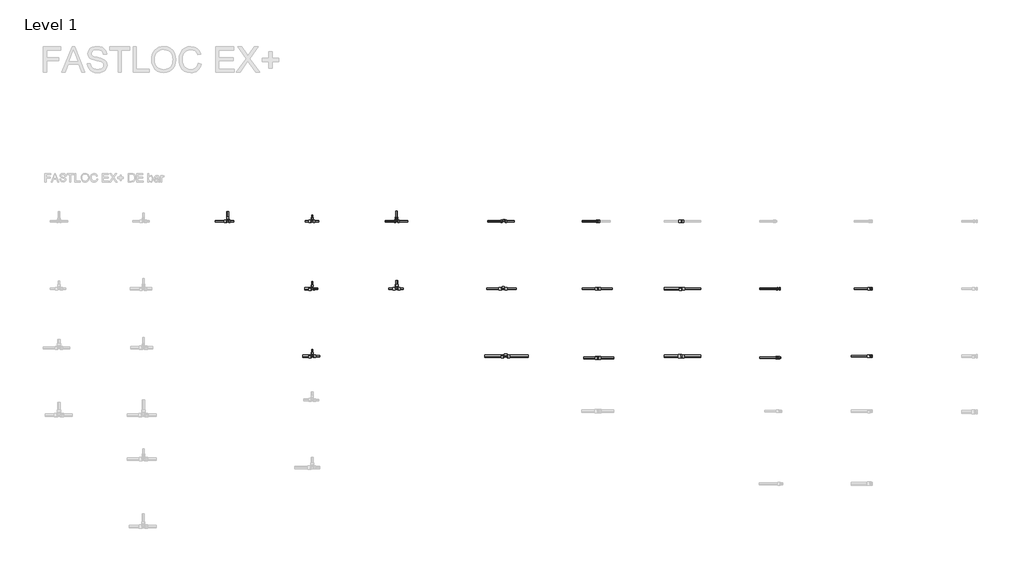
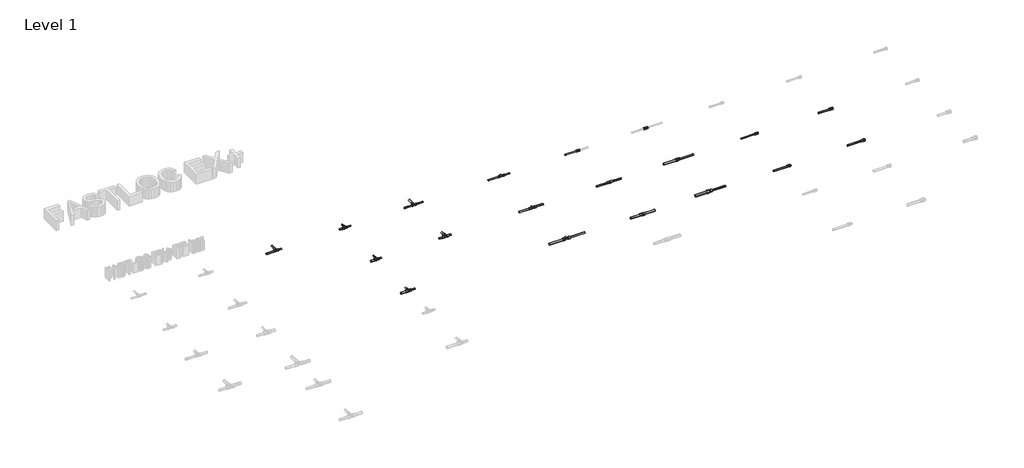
# One storey, part 11 of 16: 37 pipe segments, 19 pipe fittings.
"""IFC4 building model written with IfcOpenShell, lengths in millimetres."""

from ifc_helpers import new_model, si_unit, point, frame, frame_2d, origin, place, context, project, spatial, circle_curve, trimmed, segment, composite_curve, outline, extrude, transform, mapped, element, save
from components import pipe_fitting_41a35f07, pipe_fitting_bbd05bdc, pipe_fitting_027be69e, pipe_fitting_e3b44c6b, pipe_fitting_688652c5, pipe_fitting_e7337aea, pipe_fitting_b316c006, pipe_fitting_93b3fcde, pipe_fitting_ef50923d, pipe_fitting_c646100e, pipe_fitting_f9f4b2e9, pipe_fitting_1d22680d, pipe_fitting_5e3c5755, pipe_fitting_6195120d, pipe_fitting_382bea88, pipe_fitting_006a9863, pipe_fitting_3eb6683a, pipe_fitting_f7ee4d9f, pipe_fitting_f8d70d0e

model = new_model("IFC4")

# Units and contexts
model_context = context("Model", 3, world=origin())
ifc_project = project(units=[si_unit("LENGTHUNIT", "METRE", prefix="MILLI")], contexts=[model_context])

# Site, building, storey
site = spatial("IfcSite", under=ifc_project)
building = spatial("IfcBuilding", under=site)
storey = spatial("IfcBuildingStorey", under=building, Name="Level 1", Elevation=0.0)

# Pipe fittings
placement = place(None, origin())
pipe_fitting_shape = pipe_fitting_41a35f07(model_context)
element("IfcPipeFitting", 1, ObjectType="FASTLOC_Adapter_RX+, with external thread : FSL A C external EX+ DE", at=placement, inside=storey, context=model_context, shape_type="MappedRepresentation", body=[
    mapped(pipe_fitting_shape, transform((10080.5062975, 1212.3520033, 0.0), x_axis=(1.0, 0.0, 0.0), y_axis=(0.0, 1.0, 0.0), z_axis=(0.0, 0.0, 1.0))),
])
pipe_fitting_2_shape = pipe_fitting_bbd05bdc(model_context)
element("IfcPipeFitting", 2, ObjectType="FASTLOC_Adapter_RX+, with external thread : FSL A C external EX+ DE", at=placement, inside=storey, context=model_context, shape_type="MappedRepresentation", body=[
    mapped(pipe_fitting_2_shape, transform((10090.6359613, 393.645754, 0.0), x_axis=(1.0, 0.0, 0.0), y_axis=(0.0, 1.0, 0.0), z_axis=(0.0, 0.0, 1.0))),
])
pipe_fitting_3_shape = pipe_fitting_027be69e(model_context)
element("IfcPipeFitting", 3, ObjectType="FASTLOC_Coupling equal EX+ : FSL C EQ EX+ DE", at=placement, inside=storey, context=model_context, shape_type="MappedRepresentation", body=[
    mapped(pipe_fitting_3_shape, transform((7947.6401575, 2012.3520033, 0.0), x_axis=(1.0, 0.0, 0.0), y_axis=(0.0, 1.0, 0.0), z_axis=(0.0, 0.0, 1.0))),
])
pipe_fitting_4_shape = pipe_fitting_e3b44c6b(model_context)
element("IfcPipeFitting", 4, ObjectType="FASTLOC_T-piece internal thread EX+ : FSL T thread EX+ DE", at=placement, inside=storey, context=model_context, shape_type="MappedRepresentation", body=[
    mapped(pipe_fitting_4_shape, transform((6823.972973, 1212.3520033, 0.0), x_axis=(1.0, 0.0, 0.0), y_axis=(0.0, 1.0, 0.0), z_axis=(0.0, 0.0, 1.0))),
])
pipe_fitting_5_shape = pipe_fitting_688652c5(model_context)
element("IfcPipeFitting", 5, ObjectType="FASTLOC_T-piece internal thread EX+ : FSL T thread EX+ DE", at=placement, inside=storey, context=model_context, shape_type="MappedRepresentation", body=[
    mapped(pipe_fitting_5_shape, transform((6854.9423493, 412.3520033, 0.0), x_axis=(1.0, 0.0, 0.0), y_axis=(0.0, 1.0, 0.0), z_axis=(0.0, 0.0, 1.0))),
])
pipe_fitting_6_shape = pipe_fitting_e7337aea(model_context)
element("IfcPipeFitting", 6, ObjectType="FASTLOC_T-piece_EX+ : FSL T-Piece EX+ DE", at=placement, inside=storey, context=model_context, shape_type="MappedRepresentation", body=[
    mapped(pipe_fitting_6_shape, transform((3562.9146925, 2012.3520033, 0.0), x_axis=(1.0, 0.0, 0.0), y_axis=(0.0, 1.0, 0.0), z_axis=(0.0, 0.0, 1.0))),
])
pipe_fitting_7_shape = pipe_fitting_b316c006(model_context)
element("IfcPipeFitting", 7, ObjectType="FASTLOC_T-piece_EX+ : FSL T-Piece EX+ DE", at=placement, inside=storey, context=model_context, shape_type="MappedRepresentation", body=[
    mapped(pipe_fitting_7_shape, transform((4562.9146925, 2012.3520033, 0.0), x_axis=(1.0, 0.0, 0.0), y_axis=(0.0, 1.0, 0.0), z_axis=(0.0, 0.0, 1.0))),
])
pipe_fitting_8_shape = pipe_fitting_93b3fcde(model_context)
element("IfcPipeFitting", 8, ObjectType="FASTLOC_T-piece_EX+ : FSL T-Piece EX+ DE", at=placement, inside=storey, context=model_context, shape_type="MappedRepresentation", body=[
    mapped(pipe_fitting_8_shape, transform((4562.9146925, 1212.3520033, 0.0), x_axis=(1.0, 0.0, 0.0), y_axis=(0.0, 1.0, 0.0), z_axis=(0.0, 0.0, 1.0))),
])
pipe_fitting_9_shape = pipe_fitting_ef50923d(model_context)
element("IfcPipeFitting", 9, ObjectType="FASTLOC_T-piece_EX+ : FSL T-Piece EX+ DE", at=placement, inside=storey, context=model_context, shape_type="MappedRepresentation", body=[
    mapped(pipe_fitting_9_shape, transform((4562.9146925, 412.3520033, 0.0), x_axis=(1.0, 0.0, 0.0), y_axis=(0.0, 1.0, 0.0), z_axis=(0.0, 0.0, 1.0))),
])
pipe_fitting_10_shape = pipe_fitting_c646100e(model_context)
element("IfcPipeFitting", 10, ObjectType="FASTLOC_T-piece_EX+ : FSL T-Piece EX+ DE", at=placement, inside=storey, context=model_context, shape_type="MappedRepresentation", body=[
    mapped(pipe_fitting_10_shape, transform((5562.9146925, 1212.3520033, 0.0), x_axis=(1.0, 0.0, 0.0), y_axis=(0.0, 1.0, 0.0), z_axis=(0.0, 0.0, 1.0))),
])
pipe_fitting_11_shape = pipe_fitting_f9f4b2e9(model_context)
element("IfcPipeFitting", 11, ObjectType="FASTLOC_Coupling reduced EX+ : FSL C RE EX+ DE", at=placement, inside=storey, context=model_context, shape_type="MappedRepresentation", body=[
    mapped(pipe_fitting_11_shape, transform((8942.2258143, 1212.3520033, 0.0), x_axis=(1.0, 0.0, 0.0), y_axis=(0.0, 1.0, 0.0), z_axis=(0.0, 0.0, 1.0))),
])
pipe_fitting_12_shape = pipe_fitting_1d22680d(model_context)
element("IfcPipeFitting", 12, ObjectType="FASTLOC_Coupling equal EX+ : FSL C EQ EX+ DE", at=placement, inside=storey, context=model_context, shape_type="MappedRepresentation", body=[
    mapped(pipe_fitting_12_shape, transform((7947.6401575, 1212.3520033, 0.0), x_axis=(1.0, 0.0, 0.0), y_axis=(0.0, 1.0, 0.0), z_axis=(0.0, 0.0, 1.0))),
])
pipe_fitting_13_shape = pipe_fitting_5e3c5755(model_context)
element("IfcPipeFitting", 13, ObjectType="FASTLOC_Coupling equal EX+ : FSL C EQ EX+ DE", at=placement, inside=storey, context=model_context, shape_type="MappedRepresentation", body=[
    mapped(pipe_fitting_13_shape, transform((7947.6401575, 393.645754, 0.0), x_axis=(1.0, 0.0, 0.0), y_axis=(0.0, 1.0, 0.0), z_axis=(0.0, 0.0, 1.0))),
])
pipe_fitting_14_shape = pipe_fitting_6195120d(model_context)
element("IfcPipeFitting", 14, ObjectType="FASTLOC_Coupling reduced EX+ : FSL C RE EX+ DE", at=placement, inside=storey, context=model_context, shape_type="MappedRepresentation", body=[
    mapped(pipe_fitting_14_shape, transform((8942.2258143, 2012.3520033, 0.0), x_axis=(1.0, 0.0, 0.0), y_axis=(0.0, 1.0, 0.0), z_axis=(0.0, 0.0, 1.0))),
])
pipe_fitting_15_shape = pipe_fitting_382bea88(model_context)
element("IfcPipeFitting", 15, ObjectType="FASTLOC_Coupling reduced EX+ : FSL C RE EX+ DE", at=placement, inside=storey, context=model_context, shape_type="MappedRepresentation", body=[
    mapped(pipe_fitting_15_shape, transform((8942.2258143, 412.3520033, 0.0), x_axis=(1.0, 0.0, 0.0), y_axis=(0.0, 1.0, 0.0), z_axis=(0.0, 0.0, 1.0))),
])
pipe_fitting_16_shape = pipe_fitting_006a9863(model_context)
element("IfcPipeFitting", 16, ObjectType="FASTLOC_T-piece_EX+ : FSL T-Piece EX+ DE", at=placement, inside=storey, context=model_context, shape_type="MappedRepresentation", body=[
    mapped(pipe_fitting_16_shape, transform((5562.9146925, 2012.3520033, 0.0), x_axis=(1.0, 0.0, 0.0), y_axis=(0.0, 1.0, 0.0), z_axis=(0.0, 0.0, 1.0))),
])
pipe_fitting_17_shape = pipe_fitting_3eb6683a(model_context)
element("IfcPipeFitting", 17, ObjectType="FASTLOC_T-piece internal thread EX+ : FSL T thread EX+ DE", at=placement, inside=storey, context=model_context, shape_type="MappedRepresentation", body=[
    mapped(pipe_fitting_17_shape, transform((6834.0203333, 2012.3520033, 0.0), x_axis=(1.0, 0.0, 0.0), y_axis=(0.0, 1.0, 0.0), z_axis=(0.0, 0.0, 1.0))),
])
pipe_fitting_18_shape = pipe_fitting_f7ee4d9f(model_context)
element("IfcPipeFitting", 18, ObjectType="FASTLOC_Adapter_EX+, with internal thread : FSL A internal DE", at=placement, inside=storey, context=model_context, shape_type="MappedRepresentation", body=[
    mapped(pipe_fitting_18_shape, transform((11179.5143796, 1212.3520033, 0.0), x_axis=(1.0, 0.0, 0.0), y_axis=(0.0, 1.0, 0.0), z_axis=(0.0, 0.0, 1.0))),
])
pipe_fitting_19_shape = pipe_fitting_f8d70d0e(model_context)
element("IfcPipeFitting", 19, ObjectType="FASTLOC_Adapter_EX+, with internal thread : FSL A internal DE", at=placement, inside=storey, context=model_context, shape_type="MappedRepresentation", body=[
    mapped(pipe_fitting_19_shape, transform((11179.5143796, 412.3520033, 0.0), x_axis=(1.0, 0.0, 0.0), y_axis=(0.0, 1.0, 0.0), z_axis=(0.0, 0.0, 1.0))),
])

# Pipe segments
element("IfcPipeSegment", 20, ObjectType="FASTLOC EX+ ML DE bar", at=placement, inside=storey, context=model_context, shape_type="SweptSolid", body=[
    extrude(outline(composite_curve([segment(trimmed(circle_curve(frame_2d((1212.3520033, 0.0)), 10.0), [point((1222.3520033, 0.0))], [point((1212.3520033, -10.0))], False, "CARTESIAN"), True, "CONTINUOUS"), segment(trimmed(circle_curve(frame_2d((1212.3520033, 0.0)), 10.0), [point((1212.3520033, -10.0))], [point((1202.3520033, 0.0))], False, "CARTESIAN"), True, "CONTINUOUS"), segment(trimmed(circle_curve(frame_2d((1212.3520033, 0.0)), 10.0), [point((1202.3520033, 0.0))], [point((1212.3520033, 10.0))], False, "CARTESIAN"), True, "CONTINUOUS"), segment(trimmed(circle_curve(frame_2d((1212.3520033, 0.0)), 10.0), [point((1212.3520033, 10.0))], [point((1222.3520033, 0.0))], False, "CARTESIAN"), True, "CONTINUOUS")], self_intersect=False)), frame((10987.1143796, 0.0, 0.0), z_axis=(1.0, 0.0, 0.0), x_axis=(0.0, 1.0, 0.0)), (0.0, 0.0, 1.0), 180.7),
])
element("IfcPipeSegment", 21, ObjectType="FASTLOC EX+ ML DE bar", at=placement, inside=storey, context=model_context, shape_type="SweptSolid", body=[
    extrude(outline(composite_curve([segment(trimmed(circle_curve(frame_2d((412.3520033, 0.0)), 10.0), [point((422.3520033, 0.0))], [point((412.3520033, -10.0))], False, "CARTESIAN"), True, "CONTINUOUS"), segment(trimmed(circle_curve(frame_2d((412.3520033, 0.0)), 10.0), [point((412.3520033, -10.0))], [point((402.3520033, 0.0))], False, "CARTESIAN"), True, "CONTINUOUS"), segment(trimmed(circle_curve(frame_2d((412.3520033, 0.0)), 10.0), [point((402.3520033, 0.0))], [point((412.3520033, 10.0))], False, "CARTESIAN"), True, "CONTINUOUS"), segment(trimmed(circle_curve(frame_2d((412.3520033, 0.0)), 10.0), [point((412.3520033, 10.0))], [point((422.3520033, 0.0))], False, "CARTESIAN"), True, "CONTINUOUS")], self_intersect=False)), frame((10946.2143796, 0.0, 0.0), z_axis=(1.0, 0.0, 0.0), x_axis=(0.0, 1.0, 0.0)), (0.0, 0.0, 1.0), 220.0),
])
element("IfcPipeSegment", 22, ObjectType="FASTLOC EX+ ML DE bar", at=placement, inside=storey, context=model_context, shape_type="SweptSolid", body=[
    extrude(outline(composite_curve([segment(trimmed(circle_curve(frame_2d((393.645754, 0.0)), 10.0), [point((403.645754, 0.0))], [point((393.645754, -10.0))], False, "CARTESIAN"), True, "CONTINUOUS"), segment(trimmed(circle_curve(frame_2d((393.645754, 0.0)), 10.0), [point((393.645754, -10.0))], [point((383.645754, 0.0))], False, "CARTESIAN"), True, "CONTINUOUS"), segment(trimmed(circle_curve(frame_2d((393.645754, 0.0)), 10.0), [point((383.645754, 0.0))], [point((393.645754, 10.0))], False, "CARTESIAN"), True, "CONTINUOUS"), segment(trimmed(circle_curve(frame_2d((393.645754, 0.0)), 10.0), [point((393.645754, 10.0))], [point((403.645754, 0.0))], False, "CARTESIAN"), True, "CONTINUOUS")], self_intersect=False)), frame((9861.9359613, 0.0, 0.0), z_axis=(1.0, 0.0, 0.0), x_axis=(0.0, 1.0, 0.0)), (0.0, 0.0, 1.0), 220.0),
])
element("IfcPipeSegment", 23, ObjectType="FASTLOC EX+ ML DE bar", at=placement, inside=storey, context=model_context, shape_type="SweptSolid", body=[
    extrude(outline(composite_curve([segment(trimmed(circle_curve(frame_2d((1212.3520033, 0.0)), 8.0), [point((1220.3520033, 0.0))], [point((1212.3520033, -8.0))], False, "CARTESIAN"), True, "CONTINUOUS"), segment(trimmed(circle_curve(frame_2d((1212.3520033, 0.0)), 8.0), [point((1212.3520033, -8.0))], [point((1204.3520033, 0.0))], False, "CARTESIAN"), True, "CONTINUOUS"), segment(trimmed(circle_curve(frame_2d((1212.3520033, 0.0)), 8.0), [point((1204.3520033, 0.0))], [point((1212.3520033, 8.0))], False, "CARTESIAN"), True, "CONTINUOUS"), segment(trimmed(circle_curve(frame_2d((1212.3520033, 0.0)), 8.0), [point((1212.3520033, 8.0))], [point((1220.3520033, 0.0))], False, "CARTESIAN"), True, "CONTINUOUS")], self_intersect=False)), frame((9861.9359613, 0.0, 0.0), z_axis=(1.0, 0.0, 0.0), x_axis=(0.0, 1.0, 0.0)), (0.0, 0.0, 1.0), 209.6703362),
])
element("IfcPipeSegment", 24, ObjectType="FASTLOC EX+ ML DE bar", at=placement, inside=storey, context=model_context, shape_type="SweptSolid", body=[
    extrude(outline(composite_curve([segment(trimmed(circle_curve(frame_2d((2012.3520033, 0.0)), 8.0), [point((2020.3520033, 0.0))], [point((2012.3520033, -8.0))], False, "CARTESIAN"), True, "CONTINUOUS"), segment(trimmed(circle_curve(frame_2d((2012.3520033, 0.0)), 8.0), [point((2012.3520033, -8.0))], [point((2004.3520033, 0.0))], False, "CARTESIAN"), True, "CONTINUOUS"), segment(trimmed(circle_curve(frame_2d((2012.3520033, 0.0)), 8.0), [point((2004.3520033, 0.0))], [point((2012.3520033, 8.0))], False, "CARTESIAN"), True, "CONTINUOUS"), segment(trimmed(circle_curve(frame_2d((2012.3520033, 0.0)), 8.0), [point((2012.3520033, 8.0))], [point((2020.3520033, 0.0))], False, "CARTESIAN"), True, "CONTINUOUS")], self_intersect=False)), frame((7760.4401575, 0.0, 0.0), z_axis=(1.0, 0.0, 0.0), x_axis=(0.0, 1.0, 0.0)), (0.0, 0.0, 1.0), 180.0),
])
element("IfcPipeSegment", 25, ObjectType="FASTLOC EX+ ML DE bar", at=placement, inside=storey, context=model_context, shape_type="SweptSolid", body=[
    extrude(outline(composite_curve([segment(trimmed(circle_curve(frame_2d((1212.3520033, 0.0)), 10.0), [point((1202.3520033, 0.0))], [point((1212.3520033, 10.0))], False, "CARTESIAN"), True, "CONTINUOUS"), segment(trimmed(circle_curve(frame_2d((1212.3520033, 0.0)), 10.0), [point((1212.3520033, 10.0))], [point((1222.3520033, 0.0))], False, "CARTESIAN"), True, "CONTINUOUS"), segment(trimmed(circle_curve(frame_2d((1212.3520033, 0.0)), 10.0), [point((1222.3520033, 0.0))], [point((1212.3520033, -10.0))], False, "CARTESIAN"), True, "CONTINUOUS"), segment(trimmed(circle_curve(frame_2d((1212.3520033, 0.0)), 10.0), [point((1212.3520033, -10.0))], [point((1202.3520033, 0.0))], False, "CARTESIAN"), True, "CONTINUOUS")], self_intersect=False)), frame((7955.0401575, 0.0, 0.0), z_axis=(1.0, 0.0, 0.0), x_axis=(0.0, 1.0, 0.0)), (0.0, 0.0, 1.0), 160.0),
])
element("IfcPipeSegment", 26, ObjectType="FASTLOC EX+ ML DE bar", at=placement, inside=storey, context=model_context, shape_type="SweptSolid", body=[
    extrude(outline(composite_curve([segment(trimmed(circle_curve(frame_2d((1212.3520033, 0.0)), 10.0), [point((1222.3520033, 0.0))], [point((1212.3520033, -10.0))], False, "CARTESIAN"), True, "CONTINUOUS"), segment(trimmed(circle_curve(frame_2d((1212.3520033, 0.0)), 10.0), [point((1212.3520033, -10.0))], [point((1202.3520033, 0.0))], False, "CARTESIAN"), True, "CONTINUOUS"), segment(trimmed(circle_curve(frame_2d((1212.3520033, 0.0)), 10.0), [point((1202.3520033, 0.0))], [point((1212.3520033, 10.0))], False, "CARTESIAN"), True, "CONTINUOUS"), segment(trimmed(circle_curve(frame_2d((1212.3520033, 0.0)), 10.0), [point((1212.3520033, 10.0))], [point((1222.3520033, 0.0))], False, "CARTESIAN"), True, "CONTINUOUS")], self_intersect=False)), frame((7760.4401575, 0.0, 0.0), z_axis=(1.0, 0.0, 0.0), x_axis=(0.0, 1.0, 0.0)), (0.0, 0.0, 1.0), 179.8),
])
element("IfcPipeSegment", 27, ObjectType="FASTLOC EX+ ML DE bar", at=placement, inside=storey, context=model_context, shape_type="SweptSolid", body=[
    extrude(outline(composite_curve([segment(trimmed(circle_curve(frame_2d((393.645754, 0.0)), 12.5), [point((381.145754, 0.0))], [point((393.645754, 12.5))], False, "CARTESIAN"), True, "CONTINUOUS"), segment(trimmed(circle_curve(frame_2d((393.645754, 0.0)), 12.5), [point((393.645754, 12.5))], [point((406.145754, 0.0))], False, "CARTESIAN"), True, "CONTINUOUS"), segment(trimmed(circle_curve(frame_2d((393.645754, 0.0)), 12.5), [point((406.145754, 0.0))], [point((393.645754, -12.5))], False, "CARTESIAN"), True, "CONTINUOUS"), segment(trimmed(circle_curve(frame_2d((393.645754, 0.0)), 12.5), [point((393.645754, -12.5))], [point((381.145754, 0.0))], False, "CARTESIAN"), True, "CONTINUOUS")], self_intersect=False)), frame((7955.6401575, 0.0, 0.0), z_axis=(1.0, 0.0, 0.0), x_axis=(0.0, 1.0, 0.0)), (0.0, 0.0, 1.0), 180.0),
])
element("IfcPipeSegment", 28, ObjectType="FASTLOC EX+ ML DE bar", at=placement, inside=storey, context=model_context, shape_type="SweptSolid", body=[
    extrude(outline(composite_curve([segment(trimmed(circle_curve(frame_2d((393.645754, 0.0)), 12.5), [point((406.145754, 0.0))], [point((393.645754, -12.5))], False, "CARTESIAN"), True, "CONTINUOUS"), segment(trimmed(circle_curve(frame_2d((393.645754, 0.0)), 12.5), [point((393.645754, -12.5))], [point((381.145754, 0.0))], False, "CARTESIAN"), True, "CONTINUOUS"), segment(trimmed(circle_curve(frame_2d((393.645754, 0.0)), 12.5), [point((381.145754, 0.0))], [point((393.645754, 12.5))], False, "CARTESIAN"), True, "CONTINUOUS"), segment(trimmed(circle_curve(frame_2d((393.645754, 0.0)), 12.5), [point((393.645754, 12.5))], [point((406.145754, 0.0))], False, "CARTESIAN"), True, "CONTINUOUS")], self_intersect=False)), frame((7779.6401575, 0.0, 0.0), z_axis=(1.0, 0.0, 0.0), x_axis=(0.0, 1.0, 0.0)), (0.0, 0.0, 1.0), 160.0),
])
element("IfcPipeSegment", 29, ObjectType="FASTLOC EX+ ML DE bar", at=placement, inside=storey, context=model_context, shape_type="SweptSolid", body=[
    extrude(outline(composite_curve([segment(trimmed(circle_curve(frame_2d((412.3520033, 0.0)), 12.5), [point((399.8520033, 0.0))], [point((412.3520033, 12.5))], False, "CARTESIAN"), True, "CONTINUOUS"), segment(trimmed(circle_curve(frame_2d((412.3520033, 0.0)), 12.5), [point((412.3520033, 12.5))], [point((424.8520033, 0.0))], False, "CARTESIAN"), True, "CONTINUOUS"), segment(trimmed(circle_curve(frame_2d((412.3520033, 0.0)), 12.5), [point((424.8520033, 0.0))], [point((412.3520033, -12.5))], False, "CARTESIAN"), True, "CONTINUOUS"), segment(trimmed(circle_curve(frame_2d((412.3520033, 0.0)), 12.5), [point((412.3520033, -12.5))], [point((399.8520033, 0.0))], False, "CARTESIAN"), True, "CONTINUOUS")], self_intersect=False)), frame((6881.6423493, 0.0, 0.0), z_axis=(1.0, 0.0, 0.0), x_axis=(0.0, 1.0, 0.0)), (0.0, 0.0, 1.0), 240.0),
])
element("IfcPipeSegment", 30, ObjectType="FASTLOC EX+ ML DE bar", at=placement, inside=storey, context=model_context, shape_type="SweptSolid", body=[
    extrude(outline(composite_curve([segment(trimmed(circle_curve(frame_2d((412.3520033, 0.0)), 12.5), [point((424.8520033, 0.0))], [point((412.3520033, -12.5))], False, "CARTESIAN"), True, "CONTINUOUS"), segment(trimmed(circle_curve(frame_2d((412.3520033, 0.0)), 12.5), [point((412.3520033, -12.5))], [point((399.8520033, 0.0))], False, "CARTESIAN"), True, "CONTINUOUS"), segment(trimmed(circle_curve(frame_2d((412.3520033, 0.0)), 12.5), [point((399.8520033, 0.0))], [point((412.3520033, 12.5))], False, "CARTESIAN"), True, "CONTINUOUS"), segment(trimmed(circle_curve(frame_2d((412.3520033, 0.0)), 12.5), [point((412.3520033, 12.5))], [point((424.8520033, 0.0))], False, "CARTESIAN"), True, "CONTINUOUS")], self_intersect=False)), frame((6608.2423493, 0.0, 0.0), z_axis=(1.0, 0.0, 0.0), x_axis=(0.0, 1.0, 0.0)), (0.0, 0.0, 1.0), 220.0),
])
element("IfcPipeSegment", 31, ObjectType="FASTLOC EX+ ML DE bar", at=placement, inside=storey, context=model_context, shape_type="SweptSolid", body=[
    extrude(outline(composite_curve([segment(trimmed(circle_curve(frame_2d((1212.3520033, 0.0)), 10.0), [point((1202.3520033, 0.0))], [point((1212.3520033, 10.0))], False, "CARTESIAN"), True, "CONTINUOUS"), segment(trimmed(circle_curve(frame_2d((1212.3520033, 0.0)), 10.0), [point((1212.3520033, 10.0))], [point((1222.3520033, 0.0))], False, "CARTESIAN"), True, "CONTINUOUS"), segment(trimmed(circle_curve(frame_2d((1212.3520033, 0.0)), 10.0), [point((1222.3520033, 0.0))], [point((1212.3520033, -10.0))], False, "CARTESIAN"), True, "CONTINUOUS"), segment(trimmed(circle_curve(frame_2d((1212.3520033, 0.0)), 10.0), [point((1212.3520033, -10.0))], [point((1202.3520033, 0.0))], False, "CARTESIAN"), True, "CONTINUOUS")], self_intersect=False)), frame((6846.472973, 0.0, 0.0), z_axis=(1.0, 0.0, 0.0), x_axis=(0.0, 1.0, 0.0)), (0.0, 0.0, 1.0), 135.0),
])
element("IfcPipeSegment", 32, ObjectType="FASTLOC EX+ ML DE bar", at=placement, inside=storey, context=model_context, shape_type="SweptSolid", body=[
    extrude(outline(composite_curve([segment(trimmed(circle_curve(frame_2d((1212.3520033, 0.0)), 10.0), [point((1222.3520033, 0.0))], [point((1212.3520033, -10.0))], False, "CARTESIAN"), True, "CONTINUOUS"), segment(trimmed(circle_curve(frame_2d((1212.3520033, 0.0)), 10.0), [point((1212.3520033, -10.0))], [point((1202.3520033, 0.0))], False, "CARTESIAN"), True, "CONTINUOUS"), segment(trimmed(circle_curve(frame_2d((1212.3520033, 0.0)), 10.0), [point((1202.3520033, 0.0))], [point((1212.3520033, 10.0))], False, "CARTESIAN"), True, "CONTINUOUS"), segment(trimmed(circle_curve(frame_2d((1212.3520033, 0.0)), 10.0), [point((1212.3520033, 10.0))], [point((1222.3520033, 0.0))], False, "CARTESIAN"), True, "CONTINUOUS")], self_intersect=False)), frame((6631.472973, 0.0, 0.0), z_axis=(1.0, 0.0, 0.0), x_axis=(0.0, 1.0, 0.0)), (0.0, 0.0, 1.0), 170.0),
])
element("IfcPipeSegment", 33, ObjectType="FASTLOC EX+ ML DE bar", at=placement, inside=storey, context=model_context, shape_type="SweptSolid", body=[
    extrude(outline(composite_curve([segment(trimmed(circle_curve(frame_2d((2012.3520033, 0.0)), 8.0), [point((2004.3520033, 0.0))], [point((2012.3520033, 8.0))], False, "CARTESIAN"), True, "CONTINUOUS"), segment(trimmed(circle_curve(frame_2d((2012.3520033, 0.0)), 8.0), [point((2012.3520033, 8.0))], [point((2020.3520033, 0.0))], False, "CARTESIAN"), True, "CONTINUOUS"), segment(trimmed(circle_curve(frame_2d((2012.3520033, 0.0)), 8.0), [point((2020.3520033, 0.0))], [point((2012.3520033, -8.0))], False, "CARTESIAN"), True, "CONTINUOUS"), segment(trimmed(circle_curve(frame_2d((2012.3520033, 0.0)), 8.0), [point((2012.3520033, -8.0))], [point((2004.3520033, 0.0))], False, "CARTESIAN"), True, "CONTINUOUS")], self_intersect=False)), frame((6856.0203333, 0.0, 0.0), z_axis=(1.0, 0.0, 0.0), x_axis=(0.0, 1.0, 0.0)), (0.0, 0.0, 1.0), 100.0),
])
element("IfcPipeSegment", 34, ObjectType="FASTLOC EX+ ML DE bar", at=placement, inside=storey, context=model_context, shape_type="SweptSolid", body=[
    extrude(outline(composite_curve([segment(trimmed(circle_curve(frame_2d((2012.3520033, 0.0)), 8.0), [point((2020.3520033, 0.0))], [point((2012.3520033, -8.0))], False, "CARTESIAN"), True, "CONTINUOUS"), segment(trimmed(circle_curve(frame_2d((2012.3520033, 0.0)), 8.0), [point((2012.3520033, -8.0))], [point((2004.3520033, 0.0))], False, "CARTESIAN"), True, "CONTINUOUS"), segment(trimmed(circle_curve(frame_2d((2012.3520033, 0.0)), 8.0), [point((2004.3520033, 0.0))], [point((2012.3520033, 8.0))], False, "CARTESIAN"), True, "CONTINUOUS"), segment(trimmed(circle_curve(frame_2d((2012.3520033, 0.0)), 8.0), [point((2012.3520033, 8.0))], [point((2020.3520033, 0.0))], False, "CARTESIAN"), True, "CONTINUOUS")], self_intersect=False)), frame((6642.0203333, 0.0, 0.0), z_axis=(1.0, 0.0, 0.0), x_axis=(0.0, 1.0, 0.0)), (0.0, 0.0, 1.0), 170.0),
])
element("IfcPipeSegment", 35, ObjectType="FASTLOC EX+ ML DE bar", at=placement, inside=storey, context=model_context, shape_type="SweptSolid", body=[
    extrude(outline(composite_curve([segment(trimmed(circle_curve(frame_2d((2012.3520033, 0.0)), 8.0), [point((2004.3520033, 0.0))], [point((2012.3520033, 8.0))], False, "CARTESIAN"), True, "CONTINUOUS"), segment(trimmed(circle_curve(frame_2d((2012.3520033, 0.0)), 8.0), [point((2012.3520033, 8.0))], [point((2020.3520033, 0.0))], False, "CARTESIAN"), True, "CONTINUOUS"), segment(trimmed(circle_curve(frame_2d((2012.3520033, 0.0)), 8.0), [point((2020.3520033, 0.0))], [point((2012.3520033, -8.0))], False, "CARTESIAN"), True, "CONTINUOUS"), segment(trimmed(circle_curve(frame_2d((2012.3520033, 0.0)), 8.0), [point((2012.3520033, -8.0))], [point((2004.3520033, 0.0))], False, "CARTESIAN"), True, "CONTINUOUS")], self_intersect=False)), frame((5579.8146925, 0.0, 0.0), z_axis=(1.0, 0.0, 0.0), x_axis=(0.0, 1.0, 0.0)), (0.0, 0.0, 1.0), 115.34),
])
element("IfcPipeSegment", 36, ObjectType="FASTLOC EX+ ML DE bar", at=placement, inside=storey, context=model_context, shape_type="SweptSolid", body=[
    extrude(outline(composite_curve([segment(trimmed(circle_curve(frame_2d((2012.3520033, 0.0)), 8.0), [point((2020.3520033, 0.0))], [point((2012.3520033, -8.0))], False, "CARTESIAN"), True, "CONTINUOUS"), segment(trimmed(circle_curve(frame_2d((2012.3520033, 0.0)), 8.0), [point((2012.3520033, -8.0))], [point((2004.3520033, 0.0))], False, "CARTESIAN"), True, "CONTINUOUS"), segment(trimmed(circle_curve(frame_2d((2012.3520033, 0.0)), 8.0), [point((2004.3520033, 0.0))], [point((2012.3520033, 8.0))], False, "CARTESIAN"), True, "CONTINUOUS"), segment(trimmed(circle_curve(frame_2d((2012.3520033, 0.0)), 8.0), [point((2012.3520033, 8.0))], [point((2020.3520033, 0.0))], False, "CARTESIAN"), True, "CONTINUOUS")], self_intersect=False)), frame((5426.0146925, 0.0, 0.0), z_axis=(1.0, 0.0, 0.0), x_axis=(0.0, 1.0, 0.0)), (0.0, 0.0, 1.0), 120.0),
])
element("IfcPipeSegment", 37, ObjectType="FASTLOC EX+ ML DE bar", at=placement, inside=storey, context=model_context, shape_type="SweptSolid", body=[
    extrude(outline(composite_curve([segment(trimmed(circle_curve(frame_2d((0.0, 5562.9146925)), 10.0), [point((0.0, 5572.9146925))], [point((10.0, 5562.9146925))], False, "CARTESIAN"), True, "CONTINUOUS"), segment(trimmed(circle_curve(frame_2d((0.0, 5562.9146925)), 10.0), [point((10.0, 5562.9146925))], [point((0.0, 5552.9146925))], False, "CARTESIAN"), True, "CONTINUOUS"), segment(trimmed(circle_curve(frame_2d((0.0, 5562.9146925)), 10.0), [point((0.0, 5552.9146925))], [point((-10.0, 5562.9146925))], False, "CARTESIAN"), True, "CONTINUOUS"), segment(trimmed(circle_curve(frame_2d((0.0, 5562.9146925)), 10.0), [point((-10.0, 5562.9146925))], [point((0.0, 5572.9146925))], False, "CARTESIAN"), True, "CONTINUOUS")], self_intersect=False)), frame((0.0, 2034.6520033, 0.0), z_axis=(0.0, 1.0, 0.0), x_axis=(0.0, 0.0, 1.0)), (0.0, 0.0, 1.0), 100.0),
])
element("IfcPipeSegment", 38, ObjectType="FASTLOC EX+ ML DE bar", at=placement, inside=storey, context=model_context, shape_type="SweptSolid", body=[
    extrude(outline(composite_curve([segment(trimmed(circle_curve(frame_2d((1212.3520033, 0.0)), 10.0), [point((1222.3520033, 0.0))], [point((1212.3520033, -10.0))], False, "CARTESIAN"), True, "CONTINUOUS"), segment(trimmed(circle_curve(frame_2d((1212.3520033, 0.0)), 10.0), [point((1212.3520033, -10.0))], [point((1202.3520033, 0.0))], False, "CARTESIAN"), True, "CONTINUOUS"), segment(trimmed(circle_curve(frame_2d((1212.3520033, 0.0)), 10.0), [point((1202.3520033, 0.0))], [point((1212.3520033, 10.0))], False, "CARTESIAN"), True, "CONTINUOUS"), segment(trimmed(circle_curve(frame_2d((1212.3520033, 0.0)), 10.0), [point((1212.3520033, 10.0))], [point((1222.3520033, 0.0))], False, "CARTESIAN"), True, "CONTINUOUS")], self_intersect=False)), frame((5468.9146925, 0.0, 0.0), z_axis=(1.0, 0.0, 0.0), x_axis=(0.0, 1.0, 0.0)), (0.0, 0.0, 1.0), 75.0),
])
element("IfcPipeSegment", 39, ObjectType="FASTLOC EX+ ML DE bar", at=placement, inside=storey, context=model_context, shape_type="SweptSolid", body=[
    extrude(outline(composite_curve([segment(trimmed(circle_curve(frame_2d((1212.3520033, 0.0)), 10.0), [point((1202.3520033, 0.0))], [point((1212.3520033, 10.0))], False, "CARTESIAN"), True, "CONTINUOUS"), segment(trimmed(circle_curve(frame_2d((1212.3520033, 0.0)), 10.0), [point((1212.3520033, 10.0))], [point((1222.3520033, 0.0))], False, "CARTESIAN"), True, "CONTINUOUS"), segment(trimmed(circle_curve(frame_2d((1212.3520033, 0.0)), 10.0), [point((1222.3520033, 0.0))], [point((1212.3520033, -10.0))], False, "CARTESIAN"), True, "CONTINUOUS"), segment(trimmed(circle_curve(frame_2d((1212.3520033, 0.0)), 10.0), [point((1212.3520033, -10.0))], [point((1202.3520033, 0.0))], False, "CARTESIAN"), True, "CONTINUOUS")], self_intersect=False)), frame((5581.9146925, 0.0, 0.0), z_axis=(1.0, 0.0, 0.0), x_axis=(0.0, 1.0, 0.0)), (0.0, 0.0, 1.0), 60.0),
])
element("IfcPipeSegment", 40, ObjectType="FASTLOC EX+ ML DE bar", at=placement, inside=storey, context=model_context, shape_type="SweptSolid", body=[
    extrude(outline(composite_curve([segment(trimmed(circle_curve(frame_2d((0.0, 5562.9146925)), 12.5), [point((0.0, 5575.4146925))], [point((12.5, 5562.9146925))], False, "CARTESIAN"), True, "CONTINUOUS"), segment(trimmed(circle_curve(frame_2d((0.0, 5562.9146925)), 12.5), [point((12.5, 5562.9146925))], [point((0.0, 5550.4146925))], False, "CARTESIAN"), True, "CONTINUOUS"), segment(trimmed(circle_curve(frame_2d((0.0, 5562.9146925)), 12.5), [point((0.0, 5550.4146925))], [point((-12.5, 5562.9146925))], False, "CARTESIAN"), True, "CONTINUOUS"), segment(trimmed(circle_curve(frame_2d((0.0, 5562.9146925)), 12.5), [point((-12.5, 5562.9146925))], [point((0.0, 5575.4146925))], False, "CARTESIAN"), True, "CONTINUOUS")], self_intersect=False)), frame((0.0, 1239.1520033, 0.0), z_axis=(0.0, 1.0, 0.0), x_axis=(0.0, 0.0, 1.0)), (0.0, 0.0, 1.0), 70.0),
])
element("IfcPipeSegment", 41, ObjectType="FASTLOC EX+ ML DE bar", at=placement, inside=storey, context=model_context, shape_type="SweptSolid", body=[
    extrude(outline(composite_curve([segment(trimmed(circle_curve(frame_2d((2012.3520033, 0.0)), 10.0), [point((2022.3520033, 0.0))], [point((2012.3520033, -10.0))], False, "CARTESIAN"), True, "CONTINUOUS"), segment(trimmed(circle_curve(frame_2d((2012.3520033, 0.0)), 10.0), [point((2012.3520033, -10.0))], [point((2002.3520033, 0.0))], False, "CARTESIAN"), True, "CONTINUOUS"), segment(trimmed(circle_curve(frame_2d((2012.3520033, 0.0)), 10.0), [point((2002.3520033, 0.0))], [point((2012.3520033, 10.0))], False, "CARTESIAN"), True, "CONTINUOUS"), segment(trimmed(circle_curve(frame_2d((2012.3520033, 0.0)), 10.0), [point((2012.3520033, 10.0))], [point((2022.3520033, 0.0))], False, "CARTESIAN"), True, "CONTINUOUS")], self_intersect=False)), frame((4482.4146925, 0.0, 0.0), z_axis=(1.0, 0.0, 0.0), x_axis=(0.0, 1.0, 0.0)), (0.0, 0.0, 1.0), 65.0),
])
element("IfcPipeSegment", 42, ObjectType="FASTLOC EX+ ML DE bar", at=placement, inside=storey, context=model_context, shape_type="SweptSolid", body=[
    extrude(outline(composite_curve([segment(trimmed(circle_curve(frame_2d((0.0, 4562.9146925)), 8.0), [point((0.0, 4570.9146925))], [point((8.0, 4562.9146925))], False, "CARTESIAN"), True, "CONTINUOUS"), segment(trimmed(circle_curve(frame_2d((0.0, 4562.9146925)), 8.0), [point((8.0, 4562.9146925))], [point((0.0, 4554.9146925))], False, "CARTESIAN"), True, "CONTINUOUS"), segment(trimmed(circle_curve(frame_2d((0.0, 4562.9146925)), 8.0), [point((0.0, 4554.9146925))], [point((-8.0, 4562.9146925))], False, "CARTESIAN"), True, "CONTINUOUS"), segment(trimmed(circle_curve(frame_2d((0.0, 4562.9146925)), 8.0), [point((-8.0, 4562.9146925))], [point((0.0, 4570.9146925))], False, "CARTESIAN"), True, "CONTINUOUS")], self_intersect=False)), frame((0.0, 2038.7520033, 0.0), z_axis=(0.0, 1.0, 0.0), x_axis=(0.0, 0.0, 1.0)), (0.0, 0.0, 1.0), 50.0),
])
element("IfcPipeSegment", 43, ObjectType="FASTLOC EX+ ML DE bar", at=placement, inside=storey, context=model_context, shape_type="SweptSolid", body=[
    extrude(outline(composite_curve([segment(trimmed(circle_curve(frame_2d((2012.3520033, 0.0)), 8.0), [point((2004.3520033, 0.0))], [point((2012.3520033, 8.0))], False, "CARTESIAN"), True, "CONTINUOUS"), segment(trimmed(circle_curve(frame_2d((2012.3520033, 0.0)), 8.0), [point((2012.3520033, 8.0))], [point((2020.3520033, 0.0))], False, "CARTESIAN"), True, "CONTINUOUS"), segment(trimmed(circle_curve(frame_2d((2012.3520033, 0.0)), 8.0), [point((2020.3520033, 0.0))], [point((2012.3520033, -8.0))], False, "CARTESIAN"), True, "CONTINUOUS"), segment(trimmed(circle_curve(frame_2d((2012.3520033, 0.0)), 8.0), [point((2012.3520033, -8.0))], [point((2004.3520033, 0.0))], False, "CARTESIAN"), True, "CONTINUOUS")], self_intersect=False)), frame((4578.0146925, 0.0, 0.0), z_axis=(1.0, 0.0, 0.0), x_axis=(0.0, 1.0, 0.0)), (0.0, 0.0, 1.0), 65.0),
])
element("IfcPipeSegment", 44, ObjectType="FASTLOC EX+ ML DE bar", at=placement, inside=storey, context=model_context, shape_type="SweptSolid", body=[
    extrude(outline(composite_curve([segment(trimmed(circle_curve(frame_2d((1212.3520033, 0.0)), 8.0), [point((1204.3520033, 0.0))], [point((1212.3520033, 8.0))], False, "CARTESIAN"), True, "CONTINUOUS"), segment(trimmed(circle_curve(frame_2d((1212.3520033, 0.0)), 8.0), [point((1212.3520033, 8.0))], [point((1220.3520033, 0.0))], False, "CARTESIAN"), True, "CONTINUOUS"), segment(trimmed(circle_curve(frame_2d((1212.3520033, 0.0)), 8.0), [point((1220.3520033, 0.0))], [point((1212.3520033, -8.0))], False, "CARTESIAN"), True, "CONTINUOUS"), segment(trimmed(circle_curve(frame_2d((1212.3520033, 0.0)), 8.0), [point((1212.3520033, -8.0))], [point((1204.3520033, 0.0))], False, "CARTESIAN"), True, "CONTINUOUS")], self_intersect=False)), frame((4578.0146925, 0.0, 0.0), z_axis=(1.0, 0.0, 0.0), x_axis=(0.0, 1.0, 0.0)), (0.0, 0.0, 1.0), 51.7891439),
])
element("IfcPipeSegment", 45, ObjectType="FASTLOC EX+ ML DE bar", at=placement, inside=storey, context=model_context, shape_type="SweptSolid", body=[
    extrude(outline(composite_curve([segment(trimmed(circle_curve(frame_2d((1212.3520033, 0.0)), 12.5), [point((1224.8520033, 0.0))], [point((1212.3520033, -12.5))], False, "CARTESIAN"), True, "CONTINUOUS"), segment(trimmed(circle_curve(frame_2d((1212.3520033, 0.0)), 12.5), [point((1212.3520033, -12.5))], [point((1199.8520033, 0.0))], False, "CARTESIAN"), True, "CONTINUOUS"), segment(trimmed(circle_curve(frame_2d((1212.3520033, 0.0)), 12.5), [point((1199.8520033, 0.0))], [point((1212.3520033, 12.5))], False, "CARTESIAN"), True, "CONTINUOUS"), segment(trimmed(circle_curve(frame_2d((1212.3520033, 0.0)), 12.5), [point((1212.3520033, 12.5))], [point((1224.8520033, 0.0))], False, "CARTESIAN"), True, "CONTINUOUS")], self_intersect=False)), frame((4476.5146925, 0.0, 0.0), z_axis=(1.0, 0.0, 0.0), x_axis=(0.0, 1.0, 0.0)), (0.0, 0.0, 1.0), 70.0),
])
element("IfcPipeSegment", 46, ObjectType="FASTLOC EX+ ML DE bar", at=placement, inside=storey, context=model_context, shape_type="SweptSolid", body=[
    extrude(outline(composite_curve([segment(trimmed(circle_curve(frame_2d((0.0, 4562.9146925)), 8.0), [point((0.0, 4570.9146925))], [point((8.0, 4562.9146925))], False, "CARTESIAN"), True, "CONTINUOUS"), segment(trimmed(circle_curve(frame_2d((0.0, 4562.9146925)), 8.0), [point((8.0, 4562.9146925))], [point((0.0, 4554.9146925))], False, "CARTESIAN"), True, "CONTINUOUS"), segment(trimmed(circle_curve(frame_2d((0.0, 4562.9146925)), 8.0), [point((0.0, 4554.9146925))], [point((-8.0, 4562.9146925))], False, "CARTESIAN"), True, "CONTINUOUS"), segment(trimmed(circle_curve(frame_2d((0.0, 4562.9146925)), 8.0), [point((-8.0, 4562.9146925))], [point((0.0, 4570.9146925))], False, "CARTESIAN"), True, "CONTINUOUS")], self_intersect=False)), frame((0.0, 1241.4520033, 0.0), z_axis=(0.0, 1.0, 0.0), x_axis=(0.0, 0.0, 1.0)), (0.0, 0.0, 1.0), 57.2788778),
])
element("IfcPipeSegment", 47, ObjectType="FASTLOC EX+ ML DE bar", at=placement, inside=storey, context=model_context, shape_type="SweptSolid", body=[
    extrude(outline(composite_curve([segment(trimmed(circle_curve(frame_2d((412.3520033, 0.0)), 10.0), [point((402.3520033, 0.0))], [point((412.3520033, 10.0))], False, "CARTESIAN"), True, "CONTINUOUS"), segment(trimmed(circle_curve(frame_2d((412.3520033, 0.0)), 10.0), [point((412.3520033, 10.0))], [point((422.3520033, 0.0))], False, "CARTESIAN"), True, "CONTINUOUS"), segment(trimmed(circle_curve(frame_2d((412.3520033, 0.0)), 10.0), [point((422.3520033, 0.0))], [point((412.3520033, -10.0))], False, "CARTESIAN"), True, "CONTINUOUS"), segment(trimmed(circle_curve(frame_2d((412.3520033, 0.0)), 10.0), [point((412.3520033, -10.0))], [point((402.3520033, 0.0))], False, "CARTESIAN"), True, "CONTINUOUS")], self_intersect=False)), frame((4578.4146925, 0.0, 0.0), z_axis=(1.0, 0.0, 0.0), x_axis=(0.0, 1.0, 0.0)), (0.0, 0.0, 1.0), 75.0),
])
element("IfcPipeSegment", 48, ObjectType="FASTLOC EX+ ML DE bar", at=placement, inside=storey, context=model_context, shape_type="SweptSolid", body=[
    extrude(outline(composite_curve([segment(trimmed(circle_curve(frame_2d((0.0, 4562.9146925)), 8.0), [point((0.0, 4570.9146925))], [point((8.0, 4562.9146925))], False, "CARTESIAN"), True, "CONTINUOUS"), segment(trimmed(circle_curve(frame_2d((0.0, 4562.9146925)), 8.0), [point((8.0, 4562.9146925))], [point((0.0, 4554.9146925))], False, "CARTESIAN"), True, "CONTINUOUS"), segment(trimmed(circle_curve(frame_2d((0.0, 4562.9146925)), 8.0), [point((0.0, 4554.9146925))], [point((-8.0, 4562.9146925))], False, "CARTESIAN"), True, "CONTINUOUS"), segment(trimmed(circle_curve(frame_2d((0.0, 4562.9146925)), 8.0), [point((-8.0, 4562.9146925))], [point((0.0, 4570.9146925))], False, "CARTESIAN"), True, "CONTINUOUS")], self_intersect=False)), frame((0.0, 441.4520033, 0.0), z_axis=(0.0, 1.0, 0.0), x_axis=(0.0, 0.0, 1.0)), (0.0, 0.0, 1.0), 50.0),
])
element("IfcPipeSegment", 49, ObjectType="FASTLOC EX+ ML DE bar", at=placement, inside=storey, context=model_context, shape_type="SweptSolid", body=[
    extrude(outline(composite_curve([segment(trimmed(circle_curve(frame_2d((412.3520033, 0.0)), 12.5), [point((424.8520033, 0.0))], [point((412.3520033, -12.5))], False, "CARTESIAN"), True, "CONTINUOUS"), segment(trimmed(circle_curve(frame_2d((412.3520033, 0.0)), 12.5), [point((412.3520033, -12.5))], [point((399.8520033, 0.0))], False, "CARTESIAN"), True, "CONTINUOUS"), segment(trimmed(circle_curve(frame_2d((412.3520033, 0.0)), 12.5), [point((399.8520033, 0.0))], [point((412.3520033, 12.5))], False, "CARTESIAN"), True, "CONTINUOUS"), segment(trimmed(circle_curve(frame_2d((412.3520033, 0.0)), 12.5), [point((412.3520033, 12.5))], [point((424.8520033, 0.0))], False, "CARTESIAN"), True, "CONTINUOUS")], self_intersect=False)), frame((4451.5146925, 0.0, 0.0), z_axis=(1.0, 0.0, 0.0), x_axis=(0.0, 1.0, 0.0)), (0.0, 0.0, 1.0), 95.0),
])
element("IfcPipeSegment", 50, ObjectType="FASTLOC EX+ ML DE bar", at=placement, inside=storey, context=model_context, shape_type="SweptSolid", body=[
    extrude(outline(composite_curve([segment(trimmed(circle_curve(frame_2d((2012.3520033, 0.0)), 8.0), [point((2004.3520033, 0.0))], [point((2012.3520033, 8.0))], False, "CARTESIAN"), True, "CONTINUOUS"), segment(trimmed(circle_curve(frame_2d((2012.3520033, 0.0)), 8.0), [point((2012.3520033, 8.0))], [point((2020.3520033, 0.0))], False, "CARTESIAN"), True, "CONTINUOUS"), segment(trimmed(circle_curve(frame_2d((2012.3520033, 0.0)), 8.0), [point((2020.3520033, 0.0))], [point((2012.3520033, -8.0))], False, "CARTESIAN"), True, "CONTINUOUS"), segment(trimmed(circle_curve(frame_2d((2012.3520033, 0.0)), 8.0), [point((2012.3520033, -8.0))], [point((2004.3520033, 0.0))], False, "CARTESIAN"), True, "CONTINUOUS")], self_intersect=False)), frame((3579.9146925, 0.0, 0.0), z_axis=(1.0, 0.0, 0.0), x_axis=(0.0, 1.0, 0.0)), (0.0, 0.0, 1.0), 55.0),
])
element("IfcPipeSegment", 51, ObjectType="FASTLOC EX+ ML DE bar", at=placement, inside=storey, context=model_context, shape_type="SweptSolid", body=[
    extrude(outline(composite_curve([segment(trimmed(circle_curve(frame_2d((0.0, 3562.9146925)), 10.0), [point((0.0, 3572.9146925))], [point((10.0, 3562.9146925))], False, "CARTESIAN"), True, "CONTINUOUS"), segment(trimmed(circle_curve(frame_2d((0.0, 3562.9146925)), 10.0), [point((10.0, 3562.9146925))], [point((0.0, 3552.9146925))], False, "CARTESIAN"), True, "CONTINUOUS"), segment(trimmed(circle_curve(frame_2d((0.0, 3562.9146925)), 10.0), [point((0.0, 3552.9146925))], [point((-10.0, 3562.9146925))], False, "CARTESIAN"), True, "CONTINUOUS"), segment(trimmed(circle_curve(frame_2d((0.0, 3562.9146925)), 10.0), [point((-10.0, 3562.9146925))], [point((0.0, 3572.9146925))], False, "CARTESIAN"), True, "CONTINUOUS")], self_intersect=False)), frame((0.0, 2038.7520033, 0.0), z_axis=(0.0, 1.0, 0.0), x_axis=(0.0, 0.0, 1.0)), (0.0, 0.0, 1.0), 90.0),
])
element("IfcPipeSegment", 52, ObjectType="FASTLOC EX+ ML DE bar", at=placement, inside=storey, context=model_context, shape_type="SweptSolid", body=[
    extrude(outline(composite_curve([segment(trimmed(circle_curve(frame_2d((2012.3520033, 0.0)), 10.0), [point((2022.3520033, 0.0))], [point((2012.3520033, -10.0))], False, "CARTESIAN"), True, "CONTINUOUS"), segment(trimmed(circle_curve(frame_2d((2012.3520033, 0.0)), 10.0), [point((2012.3520033, -10.0))], [point((2002.3520033, 0.0))], False, "CARTESIAN"), True, "CONTINUOUS"), segment(trimmed(circle_curve(frame_2d((2012.3520033, 0.0)), 10.0), [point((2002.3520033, 0.0))], [point((2012.3520033, 10.0))], False, "CARTESIAN"), True, "CONTINUOUS"), segment(trimmed(circle_curve(frame_2d((2012.3520033, 0.0)), 10.0), [point((2012.3520033, 10.0))], [point((2022.3520033, 0.0))], False, "CARTESIAN"), True, "CONTINUOUS")], self_intersect=False)), frame((3415.5146925, 0.0, 0.0), z_axis=(1.0, 0.0, 0.0), x_axis=(0.0, 1.0, 0.0)), (0.0, 0.0, 1.0), 130.0),
])
element("IfcPipeSegment", 53, ObjectType="FASTLOC EX+ ML DE bar", at=placement, inside=storey, context=model_context, shape_type="SweptSolid", body=[
    extrude(outline(composite_curve([segment(trimmed(circle_curve(frame_2d((1212.3520033, 0.0)), 10.0), [point((1202.3520033, 0.0))], [point((1212.3520033, 10.0))], False, "CARTESIAN"), True, "CONTINUOUS"), segment(trimmed(circle_curve(frame_2d((1212.3520033, 0.0)), 10.0), [point((1212.3520033, 10.0))], [point((1222.3520033, 0.0))], False, "CARTESIAN"), True, "CONTINUOUS"), segment(trimmed(circle_curve(frame_2d((1212.3520033, 0.0)), 10.0), [point((1222.3520033, 0.0))], [point((1212.3520033, -10.0))], False, "CARTESIAN"), True, "CONTINUOUS"), segment(trimmed(circle_curve(frame_2d((1212.3520033, 0.0)), 10.0), [point((1212.3520033, -10.0))], [point((1202.3520033, 0.0))], False, "CARTESIAN"), True, "CONTINUOUS")], self_intersect=False)), frame((8947.9258143, 0.0, 0.0), z_axis=(1.0, 0.0, 0.0), x_axis=(0.0, 1.0, 0.0)), (0.0, 0.0, 1.0), 220.6),
])
element("IfcPipeSegment", 54, ObjectType="FASTLOC EX+ ML DE bar", at=placement, inside=storey, context=model_context, shape_type="SweptSolid", body=[
    extrude(outline(composite_curve([segment(trimmed(circle_curve(frame_2d((1212.3520033, 0.0)), 12.5), [point((1224.8520033, 0.0))], [point((1212.3520033, -12.5))], False, "CARTESIAN"), True, "CONTINUOUS"), segment(trimmed(circle_curve(frame_2d((1212.3520033, 0.0)), 12.5), [point((1212.3520033, -12.5))], [point((1199.8520033, 0.0))], False, "CARTESIAN"), True, "CONTINUOUS"), segment(trimmed(circle_curve(frame_2d((1212.3520033, 0.0)), 12.5), [point((1199.8520033, 0.0))], [point((1212.3520033, 12.5))], False, "CARTESIAN"), True, "CONTINUOUS"), segment(trimmed(circle_curve(frame_2d((1212.3520033, 0.0)), 12.5), [point((1212.3520033, 12.5))], [point((1224.8520033, 0.0))], False, "CARTESIAN"), True, "CONTINUOUS")], self_intersect=False)), frame((8733.5258143, 0.0, 0.0), z_axis=(1.0, 0.0, 0.0), x_axis=(0.0, 1.0, 0.0)), (0.0, 0.0, 1.0), 198.9),
])
element("IfcPipeSegment", 55, ObjectType="FASTLOC EX+ ML DE bar", at=placement, inside=storey, context=model_context, shape_type="SweptSolid", body=[
    extrude(outline(composite_curve([segment(trimmed(circle_curve(frame_2d((412.3520033, 0.0)), 12.5), [point((399.8520033, 0.0))], [point((412.3520033, 12.5))], False, "CARTESIAN"), True, "CONTINUOUS"), segment(trimmed(circle_curve(frame_2d((412.3520033, 0.0)), 12.5), [point((412.3520033, 12.5))], [point((424.8520033, 0.0))], False, "CARTESIAN"), True, "CONTINUOUS"), segment(trimmed(circle_curve(frame_2d((412.3520033, 0.0)), 12.5), [point((424.8520033, 0.0))], [point((412.3520033, -12.5))], False, "CARTESIAN"), True, "CONTINUOUS"), segment(trimmed(circle_curve(frame_2d((412.3520033, 0.0)), 12.5), [point((412.3520033, -12.5))], [point((399.8520033, 0.0))], False, "CARTESIAN"), True, "CONTINUOUS")], self_intersect=False)), frame((8948.0258143, 0.0, 0.0), z_axis=(1.0, 0.0, 0.0), x_axis=(0.0, 1.0, 0.0)), (0.0, 0.0, 1.0), 220.5),
])
element("IfcPipeSegment", 56, ObjectType="FASTLOC EX+ ML DE bar", at=placement, inside=storey, context=model_context, shape_type="SweptSolid", body=[
    extrude(outline(composite_curve([segment(trimmed(circle_curve(frame_2d((412.3520033, 0.0)), 16.0), [point((428.3520033, 0.0))], [point((412.3520033, -16.0))], False, "CARTESIAN"), True, "CONTINUOUS"), segment(trimmed(circle_curve(frame_2d((412.3520033, 0.0)), 16.0), [point((412.3520033, -16.0))], [point((396.3520033, 0.0))], False, "CARTESIAN"), True, "CONTINUOUS"), segment(trimmed(circle_curve(frame_2d((412.3520033, 0.0)), 16.0), [point((396.3520033, 0.0))], [point((412.3520033, 16.0))], False, "CARTESIAN"), True, "CONTINUOUS"), segment(trimmed(circle_curve(frame_2d((412.3520033, 0.0)), 16.0), [point((412.3520033, 16.0))], [point((428.3520033, 0.0))], False, "CARTESIAN"), True, "CONTINUOUS")], self_intersect=False)), frame((8733.5258143, 0.0, 0.0), z_axis=(1.0, 0.0, 0.0), x_axis=(0.0, 1.0, 0.0)), (0.0, 0.0, 1.0), 196.3),
])

save(model, "model.ifc")
